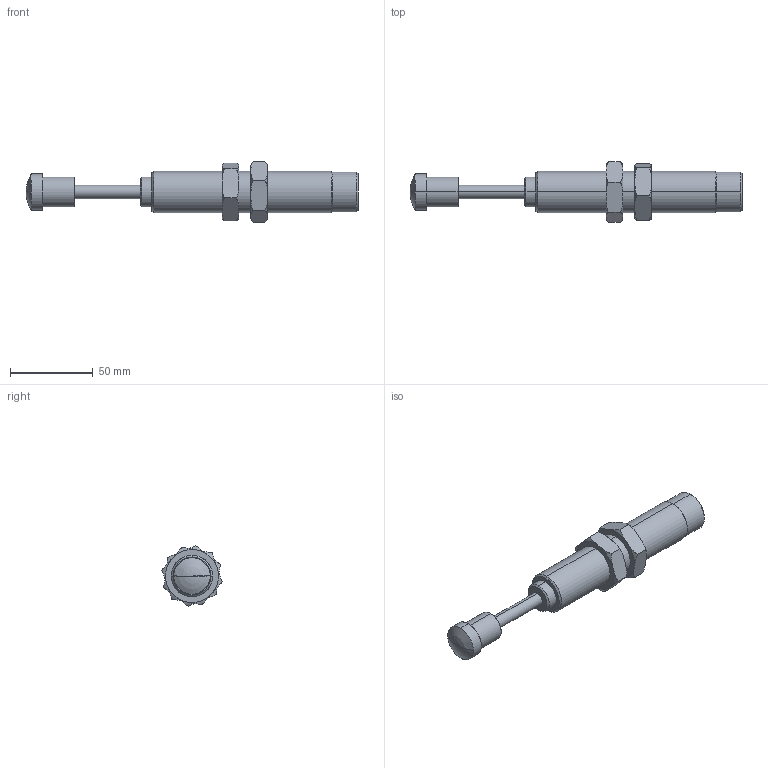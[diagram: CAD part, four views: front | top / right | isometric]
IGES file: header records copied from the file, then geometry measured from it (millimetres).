
Start section: SolidWorks IGES file using analytic representation for surfaces
Global section: file name: C:\Users\Sam Lin\Desktop\48\FSA-2540BB(CC)(CD).IGS; native system: SolidWorks 2013; preprocessor: SolidWorks 2013; author: Sam Lin; date: 160317.152948; units: metre
Bounding box: 200.5 x 36.25 x 36.63 mm (x, y, z)
Surface area: 19430.6 mm2 (no closed solid volume)
Topology: 0 solids, 0 shells, 71 faces, 1292 edges, 1291 vertices
Faces by surface type: bspline 45, revolution 26
